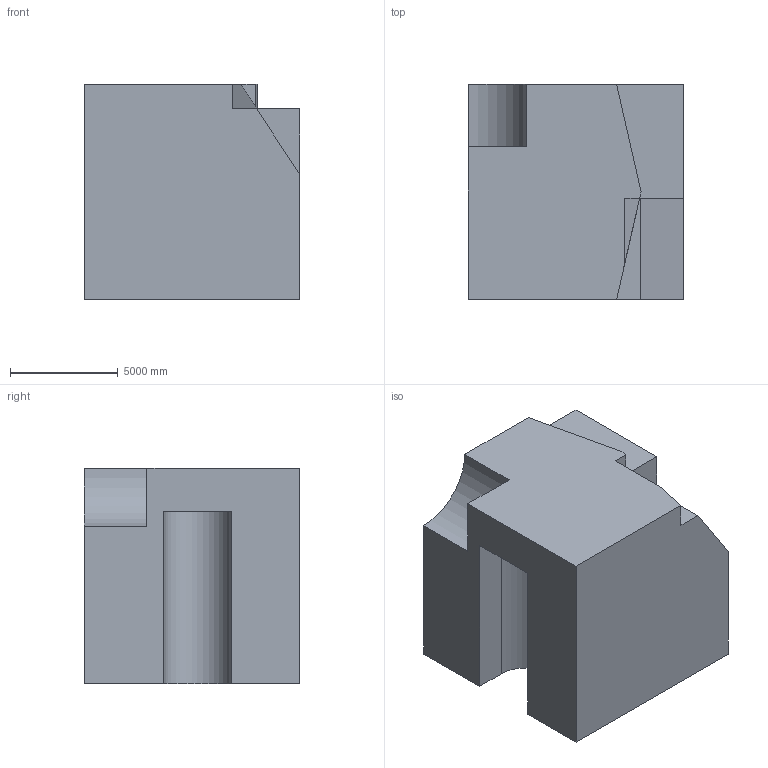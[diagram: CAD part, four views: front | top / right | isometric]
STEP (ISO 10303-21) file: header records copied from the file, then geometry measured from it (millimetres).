
FILE_DESCRIPTION (( 'STEP AP203' ), '1' );
FILE_NAME ('350.STEP', '2022-07-28T14:26:36', ( 'user' ), ( '' ), 'SwSTEP 2.0', 'SolidWorks 2021', '' );
FILE_SCHEMA (( 'CONFIG_CONTROL_DESIGN' ));
Length unit declared in the file: centimetre
Products named in the file (1): 350
Bounding box: 10000 x 10000 x 10000 mm (x, y, z)
Volume: 872668308301.3 mm3; surface area: 620086199.7 mm2
Topology: 1 solids, 1 shells, 19 faces, 51 edges, 34 vertices
Faces by surface type: plane 17, cylinder 2
Entity records: 666 total; most frequent: CARTESIAN_POINT 105, ORIENTED_EDGE 102, DIRECTION 95, EDGE_CURVE 51, VECTOR 47, LINE 47, VERTEX_POINT 34, AXIS2_PLACEMENT_3D 24
